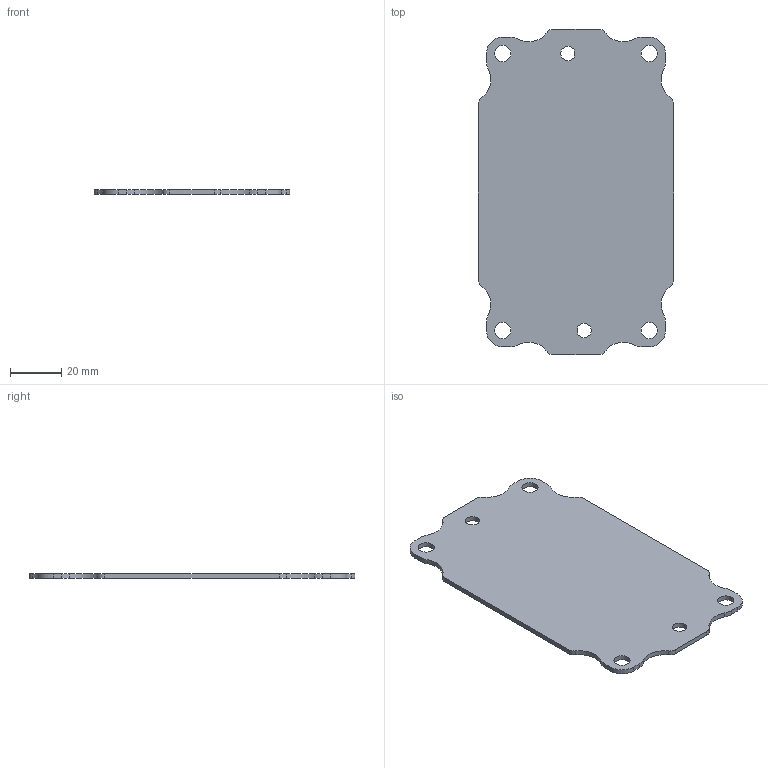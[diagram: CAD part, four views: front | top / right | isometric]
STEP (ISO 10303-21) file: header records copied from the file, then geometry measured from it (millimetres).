
FILE_DESCRIPTION((''),'2;1');
FILE_NAME('MODEL-082_ASM','2017-12-28T14:26:21',('joelb'),('SAGINAW CONTROL & ENGINEERING'),'CREO PARAMETRIC BY PTC INC, 2017260','CREO PARAMETRIC BY PTC INC, 2017260','');
FILE_SCHEMA(('AUTOMOTIVE_DESIGN { 1 0 10303 214 1 1 1 1 }'));
Length unit declared in the file: inch
Products named in the file (2): MODEL-082-SUBPNL; MODEL-082_ASM
Assembly tree (1 placements, depth 2):
  MODEL-082_ASM
    MODEL-082-SUBPNL
Bounding box: 76.2 x 127 x 1.91 mm (x, y, z)
Volume: 16627.7 mm3; surface area: 18408.9 mm2
Topology: 1 solids, 1 shells, 54 faces, 156 edges, 104 vertices
Faces by surface type: cylinder 40, plane 14
Entity records: 2983 total; most frequent: DIRECTION 350, CARTESIAN_POINT 321, ORIENTED_EDGE 312, PRESENTATION_STYLE_ASSIGNMENT 157, STYLED_ITEM 157, CURVE_STYLE 156, EDGE_CURVE 156, AXIS2_PLACEMENT_3D 137
